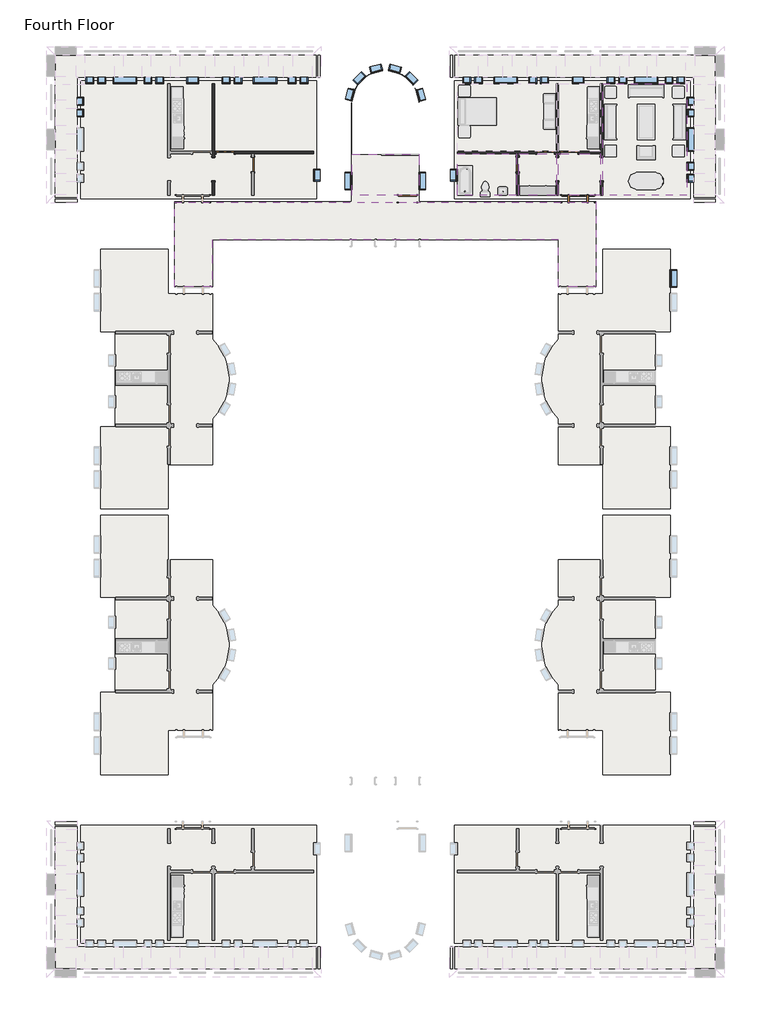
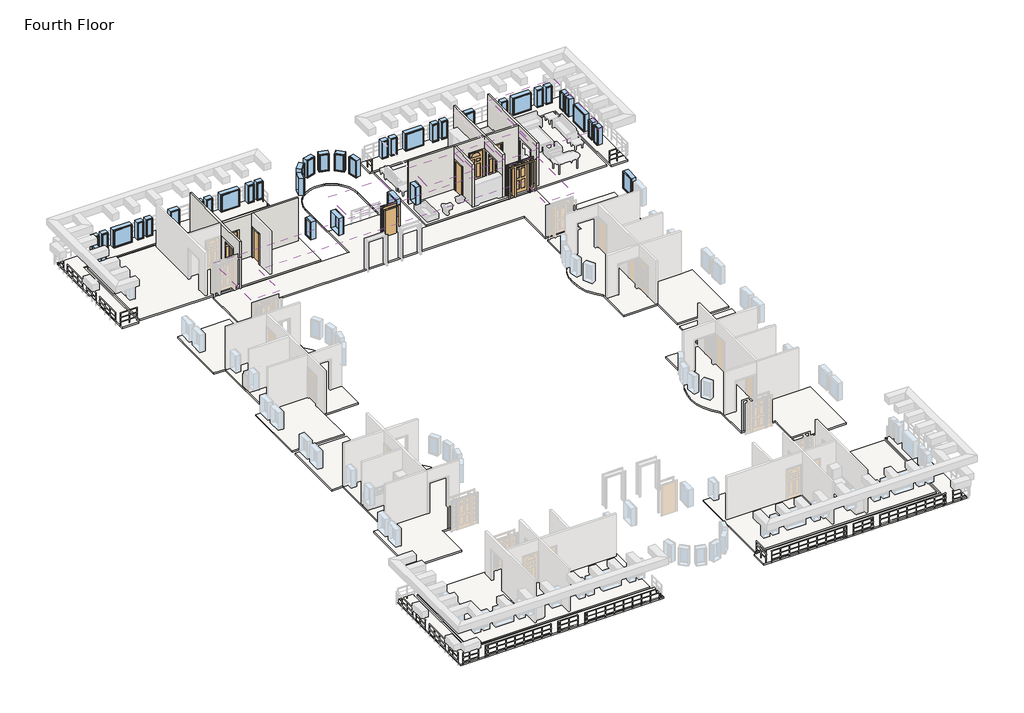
# One storey, part 3 of 5: 40 windows, 13 slabs, 7 doors, 7 walls, 6 coverings.
"""IFC4 building model written with IfcOpenShell, lengths in millimetres."""

from ifc_helpers import new_model, si_unit, point, frame, frame_2d, origin, place, context, project, spatial, polyline, circle_curve, trimmed, segment, composite_curve, outline, extrude, faceted_brep, transform, mapped, element, save
from components import door_829da954, door_2e3b4da2, door_4d6c7550, door_e36758a9, door_632be17d, door_dba5aa2e, window_da97879f, window_d61ef850, window_60baf983, window_ed80354a, window_15c49d37, window_0e2fc6ce, window_6eb97611, window_d89bf842

model = new_model("IFC4")

# Units and contexts
model_context = context("Model", 3, world=origin())
ifc_project = project(units=[si_unit("LENGTHUNIT", "METRE", prefix="MILLI")], contexts=[model_context])

# Site, building, storey
site = spatial("IfcSite", under=ifc_project)
building = spatial("IfcBuilding", under=site)
storey = spatial("IfcBuildingStorey", under=building, Name="Fourth Floor", Elevation=9144.0)

# Coverings
placement = place(None, origin())
element("IfcCovering", 1, ObjectType="GWB on Mtl. Stud", at=placement, inside=storey, context=model_context, shape_type="SweptSolid", body=[
    extrude(outline(polyline([(-3709.9589563, 4526.4441867), (-3709.9589563, 10270.0191867), (622.3285437, 10270.0191867), (622.3285437, 4526.4441867), (-3709.9589563, 4526.4441867)])), frame((0.0, 0.0, 11734.8), z_axis=(0.0, 0.0, 1.0), x_axis=(1.0, 0.0, 0.0)), (0.0, 0.0, 1.0), 107.95),
])
element("IfcCovering", 2, ObjectType="GWB on Mtl. Stud", at=placement, inside=storey, context=model_context, shape_type="SweptSolid", body=[
    extrude(outline(polyline([(-3836.9589563, 4526.4441867), (-5995.9589563, 4526.4441867), (-5995.9589563, 6660.0441867), (-3836.9589563, 6660.0441867), (-3836.9589563, 4526.4441867)])), frame((0.0, 0.0, 11734.8), z_axis=(0.0, 0.0, 1.0), x_axis=(1.0, 0.0, 0.0)), (0.0, 0.0, 1.0), 107.95),
])
element("IfcCovering", 3, ObjectType="GWB on Mtl. Stud", at=placement, inside=storey, context=model_context, shape_type="SweptSolid", body=[
    extrude(outline(polyline([(-6122.9589563, 4526.4441867), (-8042.2464563, 4526.4441867), (-8042.2464563, 6660.0441867), (-6122.9589563, 6660.0441867), (-6122.9589563, 4526.4441867)])), frame((0.0, 0.0, 11734.8), z_axis=(0.0, 0.0, 1.0), x_axis=(1.0, 0.0, 0.0)), (0.0, 0.0, 1.0), 107.95),
])
element("IfcCovering", 4, ObjectType="GWB on Mtl. Stud", at=placement, inside=storey, context=model_context, shape_type="SweptSolid", body=[
    extrude(outline(polyline([(-8169.2464563, 6660.0441867), (-8169.2464563, 4526.4441867), (-11217.2464563, 4526.4441867), (-11217.2464563, 6660.0441867), (-8169.2464563, 6660.0441867)])), frame((0.0, 0.0, 11734.8), z_axis=(0.0, 0.0, 1.0), x_axis=(1.0, 0.0, 0.0)), (0.0, 0.0, 1.0), 107.95),
])
element("IfcCovering", 5, ObjectType="GWB on Mtl. Stud", at=placement, inside=storey, context=model_context, shape_type="SweptSolid", body=[
    extrude(outline(polyline([(-13206.3839563, 4526.4441867), (-16663.9589563, 4526.4441867), (-16663.9589563, 6636.2316867), (-13206.3839563, 6636.2316867), (-13206.3839563, 4526.4441867)])), frame((0.0, 0.0, 11582.4), z_axis=(0.0, 0.0, 1.0), x_axis=(1.0, 0.0, 0.0)), (0.0, 0.0, 1.0), 107.95),
])
element("IfcCovering", 6, ObjectType="GWB on Mtl. Stud", at=placement, inside=storey, context=model_context, shape_type="SweptSolid", body=[
    extrude(outline(polyline([(-5995.9589563, -197.9558133), (-5995.9589563, 2240.4441867), (-23874.3839563, 2240.4441867), (-23874.3839563, -197.9558133), (-25807.9589563, -197.9558133), (-25807.9589563, 4174.0191867), (-4062.3839563, 4174.0191867), (-4062.3839563, -197.9558133), (-5995.9589563, -197.9558133)])), frame((0.0, 0.0, 11582.4), z_axis=(0.0, 0.0, 1.0), x_axis=(1.0, 0.0, 0.0)), (0.0, 0.0, 1.0), 107.95),
])

# Doors
door_shape = door_829da954(model_context)
element("IfcDoor", 7, ObjectType="Single-Decorative 2 : 36\" x 84\"", at=placement, inside=storey, context=model_context, shape_type="MappedRepresentation", body=[
    mapped(door_shape, transform((-5449.8589563, 6723.5441867, 9144.0), x_axis=(-1.0, 0.0, 0.0), y_axis=(0.0, -1.0, 0.0), z_axis=(0.0, 0.0, 1.0))),
])
element("IfcDoor", 8, ObjectType="Single-Decorative 2 : 36\" x 84\"", at=placement, inside=storey, context=model_context, shape_type="MappedRepresentation", body=[
    mapped(door_shape, transform((-23201.2839563, 6723.5441867, 9144.0), x_axis=(-1.0, 0.0, 0.0), y_axis=(0.0, -1.0, 0.0), z_axis=(0.0, 0.0, 1.0))),
])
door_2_shape = door_2e3b4da2(model_context)
element("IfcDoor", 9, ObjectType="Single-Decorative 2 : 36\" x 84\"", at=placement, inside=storey, context=model_context, shape_type="MappedRepresentation", body=[
    mapped(door_2_shape, transform((-6669.0589563, 6723.5441867, 9144.0), x_axis=(1.0, 0.0, 0.0), y_axis=(0.0, 1.0, 0.0), z_axis=(0.0, 0.0, 1.0))),
])
door_3_shape = door_4d6c7550(model_context)
element("IfcDoor", 10, ObjectType="Single-Flush : 30\" x 84\"", at=placement, inside=storey, context=model_context, shape_type="MappedRepresentation", body=[
    mapped(door_3_shape, transform((-8105.7464563, 6113.9441867, 9144.0), x_axis=(0.0, 1.0, 0.0), y_axis=(-1.0, 0.0, 0.0), z_axis=(0.0, 0.0, 1.0))),
])
door_4_shape = door_e36758a9(model_context)
element("IfcDoor", 11, ObjectType="Single-Flush : 30\" x 84\"", at=placement, inside=storey, context=model_context, shape_type="MappedRepresentation", body=[
    mapped(door_4_shape, transform((-21764.5964563, 6113.9441867, 9144.0), x_axis=(0.0, 1.0, 0.0), y_axis=(-1.0, 0.0, 0.0), z_axis=(0.0, 0.0, 1.0))),
])
door_5_shape = door_632be17d(model_context)
element("IfcDoor", 12, ObjectType="Single-Flush : 36\" x 84\"", at=placement, inside=storey, context=model_context, shape_type="MappedRepresentation", body=[
    mapped(door_5_shape, transform((-13792.1714563, 4350.2316867, 9144.0), x_axis=(1.0, 0.0, 0.0), y_axis=(0.0, 1.0, 0.0), z_axis=(0.0, 0.0, 1.0))),
])
door_6_shape = door_dba5aa2e(model_context)
element("IfcDoor", 13, ObjectType="Single-Raised Panel with Sidelights : 36\" x 84\"", at=placement, inside=storey, context=model_context, shape_type="MappedRepresentation", body=[
    mapped(door_6_shape, transform((-4992.6589563, 4350.2316867, 9144.0), x_axis=(-1.0, 0.0, 0.0), y_axis=(0.0, -1.0, 0.0), z_axis=(0.0, 0.0, 1.0))),
])

# Slabs
element("IfcSlab", 14, ObjectType="LW Concrete on Metal Deck", at=placement, inside=storey, context=model_context, shape_type="SweptSolid", body=[
    extrude(outline(polyline([(787.4285437, 10435.1191867), (787.4285437, 4361.3441867), (-11382.3464563, 4361.3441867), (-11382.3464563, 10435.1191867), (787.4285437, 10435.1191867)])), frame((0.0, 0.0, 9039.225), z_axis=(0.0, 0.0, 1.0), x_axis=(1.0, 0.0, 0.0)), (0.0, 0.0, 1.0), 104.775),
])
element("IfcSlab", 15, ObjectType="LW Concrete on Metal Deck", at=placement, inside=storey, context=model_context, shape_type="SweptSolid", body=[
    extrude(outline(polyline([(2093.9410437, 11741.6316867), (2093.9410437, 4174.0191867), (974.7535437, 4174.0191867), (974.7535437, 10622.4441867), (-11569.6714563, 10622.4441867), (-11569.6714563, 11741.6316867), (2093.9410437, 11741.6316867)])), frame((0.0, 0.0, 9039.225), z_axis=(0.0, 0.0, 1.0), x_axis=(1.0, 0.0, 0.0)), (0.0, 0.0, 1.0), 104.775),
])
element("IfcSlab", 16, ObjectType="LW Concrete on Metal Deck", at=placement, inside=storey, context=model_context, shape_type="SweptSolid", body=[
    extrude(outline(composite_curve([segment(polyline([(-13193.6839563, 9227.0316867), (-13193.6839563, 4186.7191867), (-4062.3839563, 4186.7191867), (-4062.3839563, -197.9558133), (-6008.6589563, -197.9558133), (-6008.6589563, 2227.7441867), (-23861.6839563, 2227.7441867), (-23861.6839563, -197.9558133), (-25807.9589563, -197.9558133), (-25807.9589563, 4186.7191867), (-16676.6589563, 4186.7191867), (-16676.6589563, 9227.0316867)]), True, "CONTINUOUS"), segment(trimmed(circle_curve(frame_2d((-14935.1714563, 9227.0316867)), 1741.4875), [point((-16676.6589563, 9227.0316867))], [point((-13193.6839563, 9227.0316867))], False, "CARTESIAN"), True, "CONTINUOUS")], self_intersect=False), holes=[composite_curve([segment(polyline([(-16663.9589563, 6636.2316867), (-13206.3839563, 6636.2316867), (-13206.3839563, 9227.0316867)]), True, "CONTINUOUS"), segment(trimmed(circle_curve(frame_2d((-14935.1714563, 9227.0316867)), 1728.7875), [point((-13206.3839563, 9227.0316867))], [point((-16663.9589563, 9227.0316867))], True, "CARTESIAN"), True, "CONTINUOUS"), segment(polyline([(-16663.9589563, 9227.0316867), (-16663.9589563, 6636.2316867)]), True, "CONTINUOUS")], self_intersect=False)]), frame((0.0, 0.0, 9039.225), z_axis=(0.0, 0.0, 1.0), x_axis=(1.0, 0.0, 0.0)), (0.0, 0.0, 1.0), 104.775),
])
element("IfcSlab", 17, ObjectType="LW Concrete on Metal Deck", at=placement, inside=storey, context=model_context, shape_type="SweptSolid", body=[
    extrude(outline(composite_curve([segment(polyline([(-239.6839563, -7395.6808133), (-239.6839563, -11640.6558133), (-3722.6589563, -11640.6558133), (-3722.6589563, -9354.6558133), (-6008.6589563, -9354.6558133), (-6008.6589563, -6994.1453152)]), True, "CONTINUOUS"), segment(trimmed(circle_curve(frame_2d((-3995.4640713, -4946.1683133)), 2871.7875), [point((-6008.6589563, -6994.1453152))], [point((-6008.6589563, -2898.1913115))], False, "CARTESIAN"), True, "CONTINUOUS"), segment(polyline([(-6008.6589563, -2898.1913115), (-6008.6589563, -537.6808133), (-3722.6589563, -537.6808133), (-3722.6589563, 1748.3191867), (-239.6839563, 1748.3191867), (-239.6839563, -2496.6558133), (-1001.6839563, -2496.6558133), (-1001.6839563, -7395.6808133), (-239.6839563, -7395.6808133)]), True, "CONTINUOUS")], self_intersect=False)), frame((0.0, 0.0, 9039.225), z_axis=(0.0, 0.0, 1.0), x_axis=(1.0, 0.0, 0.0)), (0.0, 0.0, 1.0), 104.775),
])
element("IfcSlab", 18, ObjectType="LW Concrete on Metal Deck", at=placement, inside=storey, context=model_context, shape_type="SweptSolid", body=[
    extrude(outline(polyline([(-30657.7714563, 10435.1191867), (-18487.9964563, 10435.1191867), (-18487.9964563, 4361.3441867), (-30657.7714563, 4361.3441867), (-30657.7714563, 10435.1191867)])), frame((0.0, 0.0, 9039.225), z_axis=(0.0, 0.0, 1.0), x_axis=(1.0, 0.0, 0.0)), (0.0, 0.0, 1.0), 104.775),
])
element("IfcSlab", 19, ObjectType="LW Concrete on Metal Deck", at=placement, inside=storey, context=model_context, shape_type="SweptSolid", body=[
    extrude(outline(composite_curve([segment(polyline([(-29630.6589563, -7395.6808133), (-28868.6589563, -7395.6808133), (-28868.6589563, -2496.6558133), (-29630.6589563, -2496.6558133), (-29630.6589563, 1748.3191867), (-26147.6839563, 1748.3191867), (-26147.6839563, -537.6808133), (-23861.6839563, -537.6808133), (-23861.6839563, -2898.1913115)]), True, "CONTINUOUS"), segment(trimmed(circle_curve(frame_2d((-25874.8788413, -4946.1683133)), 2871.7875), [point((-23861.6839563, -2898.1913115))], [point((-23861.6839563, -6994.1453152))], False, "CARTESIAN"), True, "CONTINUOUS"), segment(polyline([(-23861.6839563, -6994.1453152), (-23861.6839563, -9354.6558133), (-26147.6839563, -9354.6558133), (-26147.6839563, -11640.6558133), (-29630.6589563, -11640.6558133), (-29630.6589563, -7395.6808133)]), True, "CONTINUOUS")], self_intersect=False)), frame((0.0, 0.0, 9039.225), z_axis=(0.0, 0.0, 1.0), x_axis=(1.0, 0.0, 0.0)), (0.0, 0.0, 1.0), 104.775),
])
element("IfcSlab", 20, ObjectType="LW Concrete on Metal Deck", at=placement, inside=storey, context=model_context, shape_type="SweptSolid", body=[
    extrude(outline(polyline([(-31964.2839563, 11741.6316867), (-18300.6714563, 11741.6316867), (-18300.6714563, 10622.4441867), (-30845.0964563, 10622.4441867), (-30845.0964563, 4174.0191867), (-31964.2839563, 4174.0191867), (-31964.2839563, 11741.6316867)])), frame((0.0, 0.0, 9039.225), z_axis=(0.0, 0.0, 1.0), x_axis=(1.0, 0.0, 0.0)), (0.0, 0.0, 1.0), 104.775),
])
element("IfcSlab", 21, ObjectType="LW Concrete on Metal Deck", at=placement, inside=storey, context=model_context, shape_type="SweptSolid", body=[
    extrude(outline(polyline([(787.4285437, -34043.4558133), (-11382.3464563, -34043.4558133), (-11382.3464563, -27969.6808133), (787.4285437, -27969.6808133), (787.4285437, -34043.4558133)])), frame((0.0, 0.0, 9039.225), z_axis=(0.0, 0.0, 1.0), x_axis=(1.0, 0.0, 0.0)), (0.0, 0.0, 1.0), 104.775),
])
element("IfcSlab", 22, ObjectType="LW Concrete on Metal Deck", at=placement, inside=storey, context=model_context, shape_type="SweptSolid", body=[
    extrude(outline(composite_curve([segment(polyline([(-239.6839563, -16212.6558133), (-1001.6839563, -16212.6558133), (-1001.6839563, -21111.6808133), (-239.6839563, -21111.6808133), (-239.6839563, -25356.6558133), (-3722.6589563, -25356.6558133), (-3722.6589563, -23070.6558133), (-6008.6589563, -23070.6558133), (-6008.6589563, -20710.1453152)]), True, "CONTINUOUS"), segment(trimmed(circle_curve(frame_2d((-3995.4640713, -18662.1683133)), 2871.7875), [point((-6008.6589563, -20710.1453152))], [point((-6008.6589563, -16614.1913115))], False, "CARTESIAN"), True, "CONTINUOUS"), segment(polyline([(-6008.6589563, -16614.1913115), (-6008.6589563, -14253.6808133), (-3722.6589563, -14253.6808133), (-3722.6589563, -11967.6808133), (-239.6839563, -11967.6808133), (-239.6839563, -16212.6558133)]), True, "CONTINUOUS")], self_intersect=False)), frame((0.0, 0.0, 9039.225), z_axis=(0.0, 0.0, 1.0), x_axis=(1.0, 0.0, 0.0)), (0.0, 0.0, 1.0), 104.775),
])
element("IfcSlab", 23, ObjectType="LW Concrete on Metal Deck", at=placement, inside=storey, context=model_context, shape_type="SweptSolid", body=[
    extrude(outline(polyline([(-30657.7714563, -34043.4558133), (-30657.7714563, -27969.6808133), (-18487.9964563, -27969.6808133), (-18487.9964563, -34043.4558133), (-30657.7714563, -34043.4558133)])), frame((0.0, 0.0, 9039.225), z_axis=(0.0, 0.0, 1.0), x_axis=(1.0, 0.0, 0.0)), (0.0, 0.0, 1.0), 104.775),
])
element("IfcSlab", 24, ObjectType="LW Concrete on Metal Deck", at=placement, inside=storey, context=model_context, shape_type="SweptSolid", body=[
    extrude(outline(composite_curve([segment(polyline([(-29630.6589563, -16212.6558133), (-29630.6589563, -11967.6808133), (-26147.6839563, -11967.6808133), (-26147.6839563, -14253.6808133), (-23861.6839563, -14253.6808133), (-23861.6839563, -16614.1913115)]), True, "CONTINUOUS"), segment(trimmed(circle_curve(frame_2d((-25874.8788413, -18662.1683133)), 2871.7875), [point((-23861.6839563, -16614.1913115))], [point((-23861.6839563, -20710.1453152))], False, "CARTESIAN"), True, "CONTINUOUS"), segment(polyline([(-23861.6839563, -20710.1453152), (-23861.6839563, -23070.6558133), (-26147.6839563, -23070.6558133), (-26147.6839563, -25356.6558133), (-29630.6589563, -25356.6558133), (-29630.6589563, -21111.6808133), (-28868.6589563, -21111.6808133), (-28868.6589563, -16212.6558133), (-29630.6589563, -16212.6558133)]), True, "CONTINUOUS")], self_intersect=False)), frame((0.0, 0.0, 9039.225), z_axis=(0.0, 0.0, 1.0), x_axis=(1.0, 0.0, 0.0)), (0.0, 0.0, 1.0), 104.775),
])
element("IfcSlab", 25, ObjectType="LW Concrete on Metal Deck", at=placement, inside=storey, context=model_context, shape_type="SweptSolid", body=[
    extrude(outline(polyline([(2093.9410437, -35349.9683133), (-11569.6714563, -35349.9683133), (-11569.6714563, -34230.7808133), (974.7535437, -34230.7808133), (974.7535437, -27782.3558133), (2093.9410437, -27782.3558133), (2093.9410437, -35349.9683133)])), frame((0.0, 0.0, 9039.225), z_axis=(0.0, 0.0, 1.0), x_axis=(1.0, 0.0, 0.0)), (0.0, 0.0, 1.0), 104.775),
])
element("IfcSlab", 26, ObjectType="LW Concrete on Metal Deck", at=placement, inside=storey, context=model_context, shape_type="SweptSolid", body=[
    extrude(outline(polyline([(-31964.2839563, -35349.9683133), (-31964.2839563, -27782.3558133), (-30845.0964563, -27782.3558133), (-30845.0964563, -34230.7808133), (-18300.6714563, -34230.7808133), (-18300.6714563, -35349.9683133), (-31964.2839563, -35349.9683133)])), frame((0.0, 0.0, 9039.225), z_axis=(0.0, 0.0, 1.0), x_axis=(1.0, 0.0, 0.0)), (0.0, 0.0, 1.0), 104.775),
])

# Walls
element("IfcWall", 27, ObjectType="Interior - 5\" Partition (2-hr)", at=placement, inside=storey, context=model_context, shape_type="Brep", body=[
    faceted_brep([(-3836.9589563, 10270.0191867, 9144.0), (-3836.9589563, 6787.0441867, 9144.0), (-3836.9589563, 6660.0441867, 9144.0), (-3836.9589563, 6483.8316867, 9144.0), (-3836.9589563, 6483.8316867, 11277.6), (-3836.9589563, 5264.6316867, 11277.6), (-3836.9589563, 5264.6316867, 9144.0), (-3836.9589563, 4526.4441867, 9144.0), (-3836.9589563, 4526.4441867, 12192.0), (-3836.9589563, 6660.0441867, 12192.0), (-3836.9589563, 6787.0441867, 12192.0), (-3836.9589563, 10270.0191867, 12192.0), (-3709.9589563, 6483.8316867, 11277.6), (-3709.9589563, 6483.8316867, 9144.0), (-3709.9589563, 10270.0191867, 9144.0), (-3709.9589563, 10270.0191867, 12192.0), (-3709.9589563, 4526.4441867, 12192.0), (-3709.9589563, 4526.4441867, 9144.0), (-3709.9589563, 5264.6316867, 9144.0), (-3709.9589563, 5264.6316867, 11277.6)], [[[0, 1, 2, 3, 4, 5, 6, 7, 8, 9, 10, 11]], [[12, 13, 14, 15, 16, 17, 18, 19]], [[14, 13, 3, 2, 1, 0]], [[18, 17, 7, 6]], [[11, 10, 9, 8, 16, 15]], [[0, 11, 15, 14]], [[8, 7, 17, 16]], [[6, 5, 19, 18]], [[4, 3, 13, 12]], [[5, 4, 12, 19]]]),
])
element("IfcWall", 28, ObjectType="Interior - 5\" Partition (2-hr)", at=placement, inside=storey, context=model_context, shape_type="Brep", body=[
    faceted_brep([(-6122.9589563, 4526.4441867, 9144.0), (-6122.9589563, 5264.6316867, 9144.0), (-5995.9589563, 5264.6316867, 9144.0), (-5995.9589563, 4526.4441867, 9144.0), (-6122.9589563, 6483.8316867, 9144.0), (-6122.9589563, 6660.0441867, 9144.0), (-6122.9589563, 6787.0441867, 9144.0), (-6122.9589563, 10270.0191867, 9144.0), (-5995.9589563, 10270.0191867, 9144.0), (-5995.9589563, 6787.0441867, 9144.0), (-5995.9589563, 6660.0441867, 9144.0), (-5995.9589563, 6483.8316867, 9144.0), (-6122.9589563, 10270.0191867, 12192.0), (-6122.9589563, 6787.0441867, 12192.0), (-6122.9589563, 6660.0441867, 12192.0), (-6122.9589563, 4526.4441867, 12192.0), (-5995.9589563, 4526.4441867, 12192.0), (-5995.9589563, 6660.0441867, 12192.0), (-5995.9589563, 6787.0441867, 12192.0), (-5995.9589563, 10270.0191867, 12192.0), (-6122.9589563, 5264.6316867, 11277.6), (-6122.9589563, 6483.8316867, 11277.6), (-5995.9589563, 5264.6316867, 11277.6), (-5995.9589563, 6483.8316867, 11277.6)], [[[0, 1, 2, 3]], [[4, 5, 6, 7, 8, 9, 10, 11]], [[12, 13, 14, 15, 16, 17, 18, 19]], [[20, 1, 0, 15, 14, 13, 12, 7, 6, 5, 4, 21]], [[3, 2, 22, 23, 11, 10, 9, 8, 19, 18, 17, 16]], [[7, 12, 19, 8]], [[15, 0, 3, 16]], [[11, 23, 21, 4]], [[22, 2, 1, 20]], [[23, 22, 20, 21]]]),
])
element("IfcWall", 29, ObjectType="Interior - 5\" Partition (2-hr)", at=placement, inside=storey, context=model_context, shape_type="Brep", body=[
    faceted_brep([(-6122.9589563, 6660.0441867, 9144.0), (-6211.8589563, 6660.0441867, 9144.0), (-6211.8589563, 6787.0441867, 9144.0), (-6122.9589563, 6787.0441867, 9144.0), (-7126.2589563, 6660.0441867, 9144.0), (-8042.2464563, 6660.0441867, 9144.0), (-8169.2464563, 6660.0441867, 9144.0), (-11217.2464563, 6660.0441867, 9144.0), (-11217.2464563, 6787.0441867, 9144.0), (-7126.2589563, 6787.0441867, 9144.0), (-11217.2464563, 6660.0441867, 12192.0), (-8169.2464563, 6660.0441867, 12192.0), (-8042.2464563, 6660.0441867, 12192.0), (-6122.9589563, 6660.0441867, 12192.0), (-6122.9589563, 6787.0441867, 12192.0), (-11217.2464563, 6787.0441867, 12192.0), (-6211.8589563, 6660.0441867, 11277.6), (-7126.2589563, 6660.0441867, 11277.6), (-6211.8589563, 6787.0441867, 11277.6), (-7126.2589563, 6787.0441867, 11277.6)], [[[0, 1, 2, 3]], [[4, 5, 6, 7, 8, 9]], [[10, 11, 12, 13, 14, 15]], [[16, 1, 0, 13, 12, 11, 10, 7, 6, 5, 4, 17]], [[3, 2, 18, 19, 9, 8, 15, 14]], [[13, 0, 3, 14]], [[7, 10, 15, 8]], [[18, 2, 1, 16]], [[19, 18, 16, 17]], [[9, 19, 17, 4]]]),
])
element("IfcWall", 30, ObjectType="Interior - 5\" Partition (2-hr)", at=placement, inside=storey, context=model_context, shape_type="SweptSolid", body=[
    extrude(outline(polyline([(6660.0441867, 9144.0), (6494.9441867, 9144.0), (6494.9441867, 11277.6), (5732.9441867, 11277.6), (5732.9441867, 9144.0), (4526.4441867, 9144.0), (4526.4441867, 12192.0), (6660.0441867, 12192.0), (6660.0441867, 9144.0)])), frame((-8169.2464563, 0.0, 0.0), z_axis=(1.0, 0.0, 0.0), x_axis=(0.0, 1.0, 0.0)), (0.0, 0.0, 1.0), 127.0),
])
element("IfcWall", 31, ObjectType="Interior - 5\" Partition (2-hr)", at=placement, inside=storey, context=model_context, shape_type="SweptSolid", body=[
    extrude(outline(polyline([(9144.0, -5995.9589563), (9144.0, -5907.0589563), (11277.6, -5907.0589563), (11277.6, -4992.6589563), (9144.0, -4992.6589563), (9144.0, -3836.9589563), (12192.0, -3836.9589563), (12192.0, -5995.9589563), (9144.0, -5995.9589563)])), frame((0.0, 6660.0441867, 0.0), z_axis=(0.0, 1.0, 0.0), x_axis=(0.0, 0.0, 1.0)), (0.0, 0.0, 1.0), 127.0),
])
element("IfcWall", 32, ObjectType="Interior - 5\" Partition (2-hr)", at=placement, inside=storey, context=model_context, shape_type="Brep", body=[
    faceted_brep([(-23874.3839563, 5264.6316867, 11277.6), (-23874.3839563, 5264.6316867, 9144.0), (-23874.3839563, 4526.4441867, 9144.0), (-23874.3839563, 4526.4441867, 12192.0), (-23874.3839563, 6660.0441867, 12192.0), (-23874.3839563, 6787.0441867, 12192.0), (-23874.3839563, 10270.0191867, 12192.0), (-23874.3839563, 10270.0191867, 9144.0), (-23874.3839563, 6787.0441867, 9144.0), (-23874.3839563, 6660.0441867, 9144.0), (-23874.3839563, 6483.8316867, 9144.0), (-23874.3839563, 6483.8316867, 11277.6), (-23747.3839563, 4526.4441867, 9144.0), (-23747.3839563, 5264.6316867, 9144.0), (-23747.3839563, 5264.6316867, 11277.6), (-23747.3839563, 6483.8316867, 11277.6), (-23747.3839563, 6483.8316867, 9144.0), (-23747.3839563, 6660.0441867, 9144.0), (-23747.3839563, 6787.0441867, 9144.0), (-23747.3839563, 10270.0191867, 9144.0), (-23747.3839563, 10270.0191867, 12192.0), (-23747.3839563, 6787.0441867, 12192.0), (-23747.3839563, 6660.0441867, 12192.0), (-23747.3839563, 4526.4441867, 12192.0)], [[[0, 1, 2, 3, 4, 5, 6, 7, 8, 9, 10, 11]], [[12, 13, 14, 15, 16, 17, 18, 19, 20, 21, 22, 23]], [[2, 1, 13, 12]], [[10, 9, 8, 7, 19, 18, 17, 16]], [[6, 5, 4, 3, 23, 22, 21, 20]], [[7, 6, 20, 19]], [[3, 2, 12, 23]], [[16, 15, 11, 10]], [[14, 13, 1, 0]], [[15, 14, 0, 11]]]),
])
element("IfcWall", 33, ObjectType="Interior - 5\" Partition (2-hr)", at=placement, inside=storey, context=model_context, shape_type="Brep", body=[
    faceted_brep([(-23658.4839563, 6787.0441867, 11277.6), (-23658.4839563, 6787.0441867, 9144.0), (-23747.3839563, 6787.0441867, 9144.0), (-23747.3839563, 6787.0441867, 12192.0), (-18653.0964563, 6787.0441867, 12192.0), (-18653.0964563, 6787.0441867, 9144.0), (-22744.0839563, 6787.0441867, 9144.0), (-22744.0839563, 6787.0441867, 11277.6), (-23747.3839563, 6660.0441867, 9144.0), (-23658.4839563, 6660.0441867, 9144.0), (-23658.4839563, 6660.0441867, 11277.6), (-22744.0839563, 6660.0441867, 11277.6), (-22744.0839563, 6660.0441867, 9144.0), (-21828.0964563, 6660.0441867, 9144.0), (-21701.0964563, 6660.0441867, 9144.0), (-18653.0964563, 6660.0441867, 9144.0), (-18653.0964563, 6660.0441867, 12192.0), (-21701.0964563, 6660.0441867, 12192.0), (-21828.0964563, 6660.0441867, 12192.0), (-23747.3839563, 6660.0441867, 12192.0)], [[[0, 1, 2, 3, 4, 5, 6, 7]], [[8, 9, 10, 11, 12, 13, 14, 15, 16, 17, 18, 19]], [[2, 1, 9, 8]], [[6, 5, 15, 14, 13, 12]], [[4, 3, 19, 18, 17, 16]], [[3, 2, 8, 19]], [[5, 4, 16, 15]], [[10, 9, 1, 0]], [[11, 10, 0, 7]], [[12, 11, 7, 6]]]),
])

# Windows
window_shape = window_da97879f(model_context)
element("IfcWindow", 34, ObjectType="Fixed : 16\" x 48\"", at=placement, inside=storey, context=model_context, shape_type="MappedRepresentation", body=[
    mapped(window_shape, transform((-10771.1589563, 10446.2316867, 9144.0), x_axis=(-1.0, 0.0, 0.0), y_axis=(0.0, -1.0, 0.0), z_axis=(0.0, 0.0, 1.0))),
])
element("IfcWindow", 35, ObjectType="Fixed : 16\" x 48\"", at=placement, inside=storey, context=model_context, shape_type="MappedRepresentation", body=[
    mapped(window_shape, transform((-10161.5589563, 10446.2316867, 9144.0), x_axis=(-1.0, 0.0, 0.0), y_axis=(0.0, -1.0, 0.0), z_axis=(0.0, 0.0, 1.0))),
])
element("IfcWindow", 36, ObjectType="Fixed : 16\" x 48\"", at=placement, inside=storey, context=model_context, shape_type="MappedRepresentation", body=[
    mapped(window_shape, transform((-3328.9589563, 10446.2316867, 9144.0), x_axis=(-1.0, 0.0, 0.0), y_axis=(0.0, -1.0, 0.0), z_axis=(0.0, 0.0, 1.0))),
])
element("IfcWindow", 37, ObjectType="Fixed : 16\" x 48\"", at=placement, inside=storey, context=model_context, shape_type="MappedRepresentation", body=[
    mapped(window_shape, transform((-2719.3589563, 10446.2316867, 9144.0), x_axis=(-1.0, 0.0, 0.0), y_axis=(0.0, -1.0, 0.0), z_axis=(0.0, 0.0, 1.0))),
])
element("IfcWindow", 38, ObjectType="Fixed : 16\" x 48\"", at=placement, inside=storey, context=model_context, shape_type="MappedRepresentation", body=[
    mapped(window_shape, transform((798.5410437, 9417.5316867, 9144.0), x_axis=(0.0, 1.0, 0.0), y_axis=(-1.0, 0.0, 0.0), z_axis=(0.0, 0.0, 1.0))),
])
element("IfcWindow", 39, ObjectType="Fixed : 16\" x 48\"", at=placement, inside=storey, context=model_context, shape_type="MappedRepresentation", body=[
    mapped(window_shape, transform((798.5410437, 8807.9316867, 9144.0), x_axis=(0.0, 1.0, 0.0), y_axis=(-1.0, 0.0, 0.0), z_axis=(0.0, 0.0, 1.0))),
])
element("IfcWindow", 40, ObjectType="Fixed : 16\" x 48\"", at=placement, inside=storey, context=model_context, shape_type="MappedRepresentation", body=[
    mapped(window_shape, transform((-23188.5839563, 10446.2316867, 9144.0), x_axis=(-1.0, 0.0, 0.0), y_axis=(0.0, -1.0, 0.0), z_axis=(0.0, 0.0, 1.0))),
])
element("IfcWindow", 41, ObjectType="Fixed : 16\" x 48\"", at=placement, inside=storey, context=model_context, shape_type="MappedRepresentation", body=[
    mapped(window_shape, transform((-22578.9839563, 10446.2316867, 9144.0), x_axis=(-1.0, 0.0, 0.0), y_axis=(0.0, -1.0, 0.0), z_axis=(0.0, 0.0, 1.0))),
])
element("IfcWindow", 42, ObjectType="Fixed : 16\" x 48\"", at=placement, inside=storey, context=model_context, shape_type="MappedRepresentation", body=[
    mapped(window_shape, transform((-30224.3839563, 10446.2316867, 9144.0), x_axis=(-1.0, 0.0, 0.0), y_axis=(0.0, -1.0, 0.0), z_axis=(0.0, 0.0, 1.0))),
])
element("IfcWindow", 43, ObjectType="Fixed : 16\" x 48\"", at=placement, inside=storey, context=model_context, shape_type="MappedRepresentation", body=[
    mapped(window_shape, transform((-29614.7839563, 10446.2316867, 9144.0), x_axis=(-1.0, 0.0, 0.0), y_axis=(0.0, -1.0, 0.0), z_axis=(0.0, 0.0, 1.0))),
])
window_2_shape = window_d61ef850(model_context)
element("IfcWindow", 44, ObjectType="Fixed : 16\" x 48\"", at=placement, inside=storey, context=model_context, shape_type="MappedRepresentation", body=[
    mapped(window_2_shape, transform((-6681.7589563, 10446.2316867, 9144.0), x_axis=(1.0, 0.0, 0.0), y_axis=(0.0, 1.0, 0.0), z_axis=(0.0, 0.0, 1.0))),
])
element("IfcWindow", 45, ObjectType="Fixed : 16\" x 48\"", at=placement, inside=storey, context=model_context, shape_type="MappedRepresentation", body=[
    mapped(window_2_shape, transform((-7291.3589563, 10446.2316867, 9144.0), x_axis=(1.0, 0.0, 0.0), y_axis=(0.0, 1.0, 0.0), z_axis=(0.0, 0.0, 1.0))),
])
element("IfcWindow", 46, ObjectType="Fixed : 16\" x 48\"", at=placement, inside=storey, context=model_context, shape_type="MappedRepresentation", body=[
    mapped(window_2_shape, transform((354.0410437, 10446.2316867, 9144.0), x_axis=(1.0, 0.0, 0.0), y_axis=(0.0, 1.0, 0.0), z_axis=(0.0, 0.0, 1.0))),
])
element("IfcWindow", 47, ObjectType="Fixed : 16\" x 48\"", at=placement, inside=storey, context=model_context, shape_type="MappedRepresentation", body=[
    mapped(window_2_shape, transform((-255.5589563, 10446.2316867, 9144.0), x_axis=(1.0, 0.0, 0.0), y_axis=(0.0, 1.0, 0.0), z_axis=(0.0, 0.0, 1.0))),
])
element("IfcWindow", 48, ObjectType="Fixed : 16\" x 48\"", at=placement, inside=storey, context=model_context, shape_type="MappedRepresentation", body=[
    mapped(window_2_shape, transform((798.5410437, 5378.9316867, 9144.0), x_axis=(0.0, -1.0, 0.0), y_axis=(1.0, 0.0, 0.0), z_axis=(0.0, 0.0, 1.0))),
])
element("IfcWindow", 49, ObjectType="Fixed : 16\" x 48\"", at=placement, inside=storey, context=model_context, shape_type="MappedRepresentation", body=[
    mapped(window_2_shape, transform((798.5410437, 5988.5316867, 9144.0), x_axis=(0.0, -1.0, 0.0), y_axis=(1.0, 0.0, 0.0), z_axis=(0.0, 0.0, 1.0))),
])
element("IfcWindow", 50, ObjectType="Fixed : 16\" x 48\"", at=placement, inside=storey, context=model_context, shape_type="MappedRepresentation", body=[
    mapped(window_2_shape, transform((-19099.1839563, 10446.2316867, 9144.0), x_axis=(1.0, 0.0, 0.0), y_axis=(0.0, 1.0, 0.0), z_axis=(0.0, 0.0, 1.0))),
])
element("IfcWindow", 51, ObjectType="Fixed : 16\" x 48\"", at=placement, inside=storey, context=model_context, shape_type="MappedRepresentation", body=[
    mapped(window_2_shape, transform((-19708.7839563, 10446.2316867, 9144.0), x_axis=(1.0, 0.0, 0.0), y_axis=(0.0, 1.0, 0.0), z_axis=(0.0, 0.0, 1.0))),
])
element("IfcWindow", 52, ObjectType="Fixed : 16\" x 48\"", at=placement, inside=storey, context=model_context, shape_type="MappedRepresentation", body=[
    mapped(window_2_shape, transform((-26541.3839563, 10446.2316867, 9144.0), x_axis=(1.0, 0.0, 0.0), y_axis=(0.0, 1.0, 0.0), z_axis=(0.0, 0.0, 1.0))),
])
element("IfcWindow", 53, ObjectType="Fixed : 16\" x 48\"", at=placement, inside=storey, context=model_context, shape_type="MappedRepresentation", body=[
    mapped(window_2_shape, transform((-27150.9839563, 10446.2316867, 9144.0), x_axis=(1.0, 0.0, 0.0), y_axis=(0.0, 1.0, 0.0), z_axis=(0.0, 0.0, 1.0))),
])
element("IfcWindow", 54, ObjectType="Fixed : 16\" x 48\"", at=placement, inside=storey, context=model_context, shape_type="MappedRepresentation", body=[
    mapped(window_2_shape, transform((-30668.8839563, 9417.5316867, 9144.0), x_axis=(0.0, 1.0, 0.0), y_axis=(-1.0, 0.0, 0.0), z_axis=(0.0, 0.0, 1.0))),
])
element("IfcWindow", 55, ObjectType="Fixed : 16\" x 48\"", at=placement, inside=storey, context=model_context, shape_type="MappedRepresentation", body=[
    mapped(window_2_shape, transform((-30668.8839563, 8807.9316867, 9144.0), x_axis=(0.0, 1.0, 0.0), y_axis=(-1.0, 0.0, 0.0), z_axis=(0.0, 0.0, 1.0))),
])
window_3_shape = window_60baf983(model_context)
element("IfcWindow", 56, ObjectType="Fixed : 24\" x 48\"", at=placement, inside=storey, context=model_context, shape_type="MappedRepresentation", body=[
    mapped(window_3_shape, transform((-5030.7589563, 10446.2316867, 9144.0), x_axis=(-1.0, 0.0, 0.0), y_axis=(0.0, -1.0, 0.0), z_axis=(0.0, 0.0, 1.0))),
])
element("IfcWindow", 57, ObjectType="Fixed : 24\" x 48\"", at=placement, inside=storey, context=model_context, shape_type="MappedRepresentation", body=[
    mapped(window_3_shape, transform((-11393.4589563, 5531.3316867, 9144.0), x_axis=(0.0, -1.0, 0.0), y_axis=(1.0, 0.0, 0.0), z_axis=(0.0, 0.0, 1.0))),
])
element("IfcWindow", 58, ObjectType="Fixed : 24\" x 48\"", at=placement, inside=storey, context=model_context, shape_type="MappedRepresentation", body=[
    mapped(window_3_shape, transform((-16762.064163, 9683.0417496, 9144.0), x_axis=(-0.26176149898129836, -0.9651325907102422, 0.0), y_axis=(0.9651325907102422, -0.26176149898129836, 0.0), z_axis=(0.0, 0.0, 1.0))),
])
element("IfcWindow", 59, ObjectType="Fixed : 24\" x 48\"", at=placement, inside=storey, context=model_context, shape_type="MappedRepresentation", body=[
    mapped(window_3_shape, transform((-16289.3019188, 10535.3943388, 9144.0), x_axis=(-0.7092584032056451, -0.7049485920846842, 0.0), y_axis=(0.7049485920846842, -0.7092584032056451, 0.0), z_axis=(0.0, 0.0, 1.0))),
])
element("IfcWindow", 60, ObjectType="Fixed : 24\" x 48\"", at=placement, inside=storey, context=model_context, shape_type="MappedRepresentation", body=[
    mapped(window_3_shape, transform((-15453.7015108, 11037.1722121, 9144.0), x_axis=(-0.9667100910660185, -0.25587418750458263, 0.0), y_axis=(0.25587418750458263, -0.9667100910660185, 0.0), z_axis=(0.0, 0.0, 1.0))),
])
element("IfcWindow", 61, ObjectType="Fixed : 24\" x 48\"", at=placement, inside=storey, context=model_context, shape_type="MappedRepresentation", body=[
    mapped(window_3_shape, transform((-14479.1613934, 11053.9243933, 9144.0), x_axis=(-0.9651325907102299, 0.2617614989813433, 0.0), y_axis=(-0.2617614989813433, -0.9651325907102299, 0.0), z_axis=(0.0, 0.0, 1.0))),
])
element("IfcWindow", 62, ObjectType="Fixed : 24\" x 48\"", at=placement, inside=storey, context=model_context, shape_type="MappedRepresentation", body=[
    mapped(window_3_shape, transform((-13626.8088042, 10581.1621492, 9144.0), x_axis=(-0.7049485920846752, 0.7092584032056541, 0.0), y_axis=(-0.7092584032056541, -0.7049485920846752, 0.0), z_axis=(0.0, 0.0, 1.0))),
])
element("IfcWindow", 63, ObjectType="Fixed : 24\" x 48\"", at=placement, inside=storey, context=model_context, shape_type="MappedRepresentation", body=[
    mapped(window_3_shape, transform((-13125.0309309, 9745.5617412, 9144.0), x_axis=(-0.25587418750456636, 0.9667100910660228, 0.0), y_axis=(-0.9667100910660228, -0.25587418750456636, 0.0), z_axis=(0.0, 0.0, 1.0))),
])
window_4_shape = window_ed80354a(model_context)
element("IfcWindow", 64, ObjectType="Fixed : 24\" x 48\"", at=placement, inside=storey, context=model_context, shape_type="MappedRepresentation", body=[
    mapped(window_4_shape, transform((-24839.5839563, 10446.2316867, 9144.0), x_axis=(1.0, 0.0, 0.0), y_axis=(0.0, 1.0, 0.0), z_axis=(0.0, 0.0, 1.0))),
])
element("IfcWindow", 65, ObjectType="Fixed : 24\" x 48\"", at=placement, inside=storey, context=model_context, shape_type="MappedRepresentation", body=[
    mapped(window_4_shape, transform((-18476.8839563, 5531.3316867, 9144.0), x_axis=(0.0, -1.0, 0.0), y_axis=(1.0, 0.0, 0.0), z_axis=(0.0, 0.0, 1.0))),
])
window_5_shape = window_15c49d37(model_context)
element("IfcWindow", 66, ObjectType="Fixed : 36\" x 48\"", at=placement, inside=storey, context=model_context, shape_type="MappedRepresentation", body=[
    mapped(window_5_shape, transform((-16840.1714563, 5226.5316867, 9144.0), x_axis=(0.0, -1.0, 0.0), y_axis=(1.0, 0.0, 0.0), z_axis=(0.0, 0.0, 1.0))),
])
element("IfcWindow", 67, ObjectType="Fixed : 36\" x 48\"", at=placement, inside=storey, context=model_context, shape_type="MappedRepresentation", body=[
    mapped(window_5_shape, transform((-13030.1714563, 5302.7316867, 9144.0), x_axis=(0.0, 1.0, 0.0), y_axis=(-1.0, 0.0, 0.0), z_axis=(0.0, 0.0, 1.0))),
])
window_6_shape = window_0e2fc6ce(model_context)
element("IfcWindow", 68, ObjectType="Fixed : 36\" x 48\"", at=placement, inside=storey, context=model_context, shape_type="MappedRepresentation", body=[
    mapped(window_6_shape, transform((-76.1714563, 197.3316867, 9144.0), x_axis=(0.0, -1.0, 0.0), y_axis=(1.0, 0.0, 0.0), z_axis=(0.0, 0.0, 1.0))),
])
window_7_shape = window_6eb97611(model_context)
element("IfcWindow", 69, ObjectType="Fixed : 48\" x 48\"", at=placement, inside=storey, context=model_context, shape_type="MappedRepresentation", body=[
    mapped(window_7_shape, transform((-8764.5589563, 10446.2316867, 9144.0), x_axis=(-1.0, 0.0, 0.0), y_axis=(0.0, -1.0, 0.0), z_axis=(0.0, 0.0, 1.0))),
])
element("IfcWindow", 70, ObjectType="Fixed : 48\" x 48\"", at=placement, inside=storey, context=model_context, shape_type="MappedRepresentation", body=[
    mapped(window_7_shape, transform((-1525.5589563, 10446.2316867, 9144.0), x_axis=(-1.0, 0.0, 0.0), y_axis=(0.0, -1.0, 0.0), z_axis=(0.0, 0.0, 1.0))),
])
element("IfcWindow", 71, ObjectType="Fixed : 48\" x 48\"", at=placement, inside=storey, context=model_context, shape_type="MappedRepresentation", body=[
    mapped(window_7_shape, transform((798.5410437, 7436.3316867, 9144.0), x_axis=(0.0, 1.0, 0.0), y_axis=(-1.0, 0.0, 0.0), z_axis=(0.0, 0.0, 1.0))),
])
window_8_shape = window_d89bf842(model_context)
element("IfcWindow", 72, ObjectType="Fixed : 48\" x 48\"", at=placement, inside=storey, context=model_context, shape_type="MappedRepresentation", body=[
    mapped(window_8_shape, transform((-21105.7839563, 10446.2316867, 9144.0), x_axis=(1.0, 0.0, 0.0), y_axis=(0.0, 1.0, 0.0), z_axis=(0.0, 0.0, 1.0))),
])
element("IfcWindow", 73, ObjectType="Fixed : 48\" x 48\"", at=placement, inside=storey, context=model_context, shape_type="MappedRepresentation", body=[
    mapped(window_8_shape, transform((-28344.7839563, 10446.2316867, 9144.0), x_axis=(1.0, 0.0, 0.0), y_axis=(0.0, 1.0, 0.0), z_axis=(0.0, 0.0, 1.0))),
])

save(model, "model.ifc")
